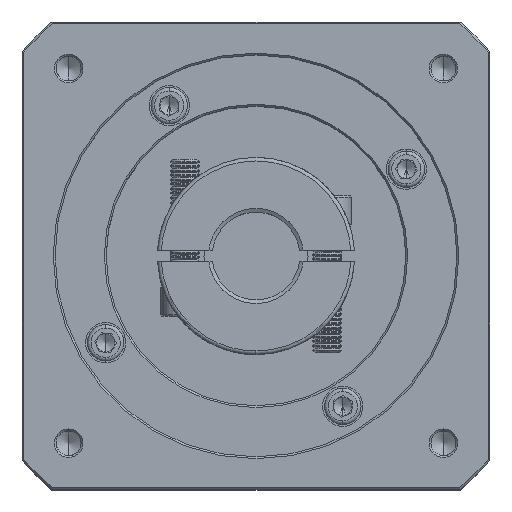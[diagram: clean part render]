
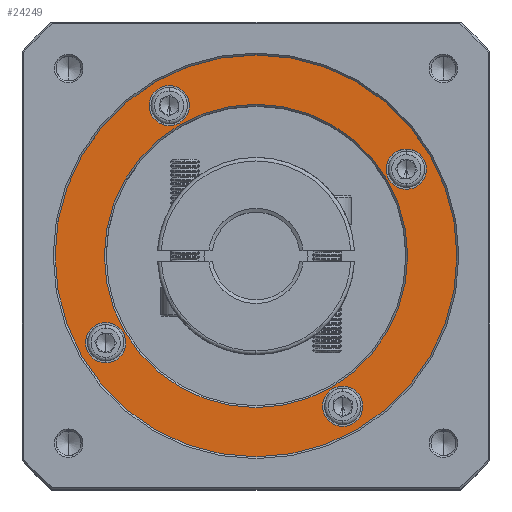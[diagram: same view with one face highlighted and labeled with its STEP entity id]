
A CAD part, top view. The second image highlights one B-rep face of the part: STEP entity #24249.
In plain terms, the highlighted planar face has unit normal (0, 0, 1).
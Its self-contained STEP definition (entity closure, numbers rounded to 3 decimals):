
#258 = DIRECTION ( 'NONE',  ( 0., 0., 1. ) ) ;
#320 = EDGE_CURVE ( 'NONE', #74528, #29827, #28955, .T. ) ;
#1079 = CARTESIAN_POINT ( 'NONE',  ( 59.764, 122.648, 51.74 ) ) ;
#3628 = ORIENTED_EDGE ( 'NONE', *, *, #23778, .T. ) ;
#4138 = ORIENTED_EDGE ( 'NONE', *, *, #44532, .T. ) ;
#4210 = CARTESIAN_POINT ( 'NONE',  ( 42.378, 52.261, 51.74 ) ) ;
#5020 = FACE_BOUND ( 'NONE', #75077, .T. ) ;
#5111 = DIRECTION ( 'NONE',  ( 0., -1., 0. ) ) ;
#5433 = EDGE_LOOP ( 'NONE', ( #24158, #79036 ) ) ;
#5480 = VERTEX_POINT ( 'NONE', #87253 ) ;
#7080 = VERTEX_POINT ( 'NONE', #129822 ) ;
#10763 = VERTEX_POINT ( 'NONE', #47444 ) ;
#12728 = VERTEX_POINT ( 'NONE', #112865 ) ;
#13347 = FACE_OUTER_BOUND ( 'NONE', #86398, .T. ) ;
#13935 = AXIS2_PLACEMENT_3D ( 'NONE', #68213, #79437, #57432 ) ;
#14695 = VERTEX_POINT ( 'NONE', #4210 ) ;
#14941 = DIRECTION ( 'NONE',  ( 0., 0., -1. ) ) ;
#15617 = ORIENTED_EDGE ( 'NONE', *, *, #320, .T. ) ;
#18250 = DIRECTION ( 'NONE',  ( 0., 0., -1. ) ) ;
#18753 = CARTESIAN_POINT ( 'NONE',  ( 59.764, 122.648, 51.74 ) ) ;
#19352 = CIRCLE ( 'NONE', #71139, 55. ) ;
#22189 = CIRCLE ( 'NONE', #38865, 5.5 ) ;
#23778 = EDGE_CURVE ( 'NONE', #58582, #99785, #85824, .T. ) ;
#23976 = VERTEX_POINT ( 'NONE', #120962 ) ;
#24122 = DIRECTION ( 'NONE',  ( 0., -1., 0. ) ) ;
#24158 = ORIENTED_EDGE ( 'NONE', *, *, #37635, .T. ) ;
#24249 = ADVANCED_FACE ( 'NONE', ( #13347, #55381, #137319, #5020, #98824, #68765 ), #106819, .T. ) ;
#25458 = CIRCLE ( 'NONE', #49634, 5.5 ) ;
#26207 = CARTESIAN_POINT ( 'NONE',  ( 83.514, 26.511, 51.74 ) ) ;
#27466 = CIRCLE ( 'NONE', #62002, 5.5 ) ;
#28955 = CIRCLE ( 'NONE', #59847, 5.5 ) ;
#28964 = CIRCLE ( 'NONE', #118522, 5.5 ) ;
#29827 = VERTEX_POINT ( 'NONE', #48607 ) ;
#30748 = DIRECTION ( 'NONE',  ( 0., 0., -1. ) ) ;
#35148 = CARTESIAN_POINT ( 'NONE',  ( 59.764, 117.148, 51.74 ) ) ;
#35442 = ORIENTED_EDGE ( 'NONE', *, *, #101432, .T. ) ;
#36492 = CARTESIAN_POINT ( 'NONE',  ( 107.264, 40.375, 51.74 ) ) ;
#37635 = EDGE_CURVE ( 'NONE', #130727, #23976, #25458, .T. ) ;
#38865 = AXIS2_PLACEMENT_3D ( 'NONE', #94852, #96222, #42374 ) ;
#39265 = DIRECTION ( 'NONE',  ( 0., 0., -1. ) ) ;
#39836 = ORIENTED_EDGE ( 'NONE', *, *, #122654, .T. ) ;
#40541 = ORIENTED_EDGE ( 'NONE', *, *, #132164, .T. ) ;
#41787 = DIRECTION ( 'NONE',  ( 0., -1., 0. ) ) ;
#42374 = DIRECTION ( 'NONE',  ( 0., -1., 0. ) ) ;
#42488 = DIRECTION ( 'NONE',  ( 0., -1., 0. ) ) ;
#44028 = CARTESIAN_POINT ( 'NONE',  ( 107.264, 45.875, 51.74 ) ) ;
#44532 = EDGE_CURVE ( 'NONE', #10763, #99980, #109635, .T. ) ;
#46409 = EDGE_CURVE ( 'NONE', #12728, #14695, #133173, .T. ) ;
#47444 = CARTESIAN_POINT ( 'NONE',  ( 42.014, 81.511, 51.74 ) ) ;
#48607 = CARTESIAN_POINT ( 'NONE',  ( 107.264, 34.875, 51.74 ) ) ;
#49634 = AXIS2_PLACEMENT_3D ( 'NONE', #18753, #95558, #83441 ) ;
#52155 = DIRECTION ( 'NONE',  ( 0., 0., 1. ) ) ;
#52821 = DIRECTION ( 'NONE',  ( -1., 0., 0. ) ) ;
#53078 = CIRCLE ( 'NONE', #86691, 41.5 ) ;
#53142 = ORIENTED_EDGE ( 'NONE', *, *, #90568, .T. ) ;
#55381 = FACE_BOUND ( 'NONE', #125342, .T. ) ;
#55482 = DIRECTION ( 'NONE',  ( 0., -1., 0. ) ) ;
#57432 = DIRECTION ( 'NONE',  ( 0., -1., 0. ) ) ;
#58582 = VERTEX_POINT ( 'NONE', #26207 ) ;
#59847 = AXIS2_PLACEMENT_3D ( 'NONE', #36492, #14941, #121655 ) ;
#60477 = CARTESIAN_POINT ( 'NONE',  ( 42.378, 57.761, 51.74 ) ) ;
#62002 = AXIS2_PLACEMENT_3D ( 'NONE', #1079, #98454, #55482 ) ;
#63658 = CIRCLE ( 'NONE', #13935, 5.5 ) ;
#67242 = DIRECTION ( 'NONE',  ( 0., 0., 1. ) ) ;
#68213 = CARTESIAN_POINT ( 'NONE',  ( 107.264, 40.375, 51.74 ) ) ;
#68765 = FACE_BOUND ( 'NONE', #5433, .T. ) ;
#71139 = AXIS2_PLACEMENT_3D ( 'NONE', #87861, #67242, #24122 ) ;
#74528 = VERTEX_POINT ( 'NONE', #44028 ) ;
#75077 = EDGE_LOOP ( 'NONE', ( #53142, #88671 ) ) ;
#75230 = CARTESIAN_POINT ( 'NONE',  ( 83.514, 136.511, 51.74 ) ) ;
#75439 = AXIS2_PLACEMENT_3D ( 'NONE', #116216, #52155, #41787 ) ;
#76262 = ORIENTED_EDGE ( 'NONE', *, *, #90304, .T. ) ;
#78145 = AXIS2_PLACEMENT_3D ( 'NONE', #108856, #258, #96256 ) ;
#79036 = ORIENTED_EDGE ( 'NONE', *, *, #89648, .T. ) ;
#79437 = DIRECTION ( 'NONE',  ( 0., 0., -1. ) ) ;
#83441 = DIRECTION ( 'NONE',  ( 0., -1., 0. ) ) ;
#85360 = AXIS2_PLACEMENT_3D ( 'NONE', #123985, #39265, #5111 ) ;
#85824 = CIRCLE ( 'NONE', #78145, 55. ) ;
#86398 = EDGE_LOOP ( 'NONE', ( #3628, #40541 ) ) ;
#86691 = AXIS2_PLACEMENT_3D ( 'NONE', #94465, #30748, #52821 ) ;
#87253 = CARTESIAN_POINT ( 'NONE',  ( 124.65, 110.761, 51.74 ) ) ;
#87861 = CARTESIAN_POINT ( 'NONE',  ( 83.514, 81.511, 51.74 ) ) ;
#87866 = DIRECTION ( 'NONE',  ( -1., 0., 0. ) ) ;
#88671 = ORIENTED_EDGE ( 'NONE', *, *, #126910, .T. ) ;
#89648 = EDGE_CURVE ( 'NONE', #23976, #130727, #27466, .T. ) ;
#89786 = EDGE_LOOP ( 'NONE', ( #76262, #112457 ) ) ;
#90304 = EDGE_CURVE ( 'NONE', #14695, #12728, #112828, .T. ) ;
#90568 = EDGE_CURVE ( 'NONE', #7080, #5480, #28964, .T. ) ;
#93195 = DIRECTION ( 'NONE',  ( 0., -1., 0. ) ) ;
#94465 = CARTESIAN_POINT ( 'NONE',  ( 83.514, 81.511, 51.74 ) ) ;
#94852 = CARTESIAN_POINT ( 'NONE',  ( 124.65, 105.261, 51.74 ) ) ;
#95558 = DIRECTION ( 'NONE',  ( 0., 0., -1. ) ) ;
#96222 = DIRECTION ( 'NONE',  ( 0., 0., -1. ) ) ;
#96256 = DIRECTION ( 'NONE',  ( 0., -1., 0. ) ) ;
#98120 = DIRECTION ( 'NONE',  ( 0., 0., -1. ) ) ;
#98454 = DIRECTION ( 'NONE',  ( 0., 0., -1. ) ) ;
#98824 = FACE_BOUND ( 'NONE', #89786, .T. ) ;
#99785 = VERTEX_POINT ( 'NONE', #75230 ) ;
#99980 = VERTEX_POINT ( 'NONE', #109337 ) ;
#101432 = EDGE_CURVE ( 'NONE', #29827, #74528, #63658, .T. ) ;
#101914 = AXIS2_PLACEMENT_3D ( 'NONE', #131337, #98120, #87866 ) ;
#105847 = EDGE_LOOP ( 'NONE', ( #35442, #15617 ) ) ;
#106104 = CARTESIAN_POINT ( 'NONE',  ( 124.65, 105.261, 51.74 ) ) ;
#106819 = PLANE ( 'NONE',  #75439 ) ;
#108856 = CARTESIAN_POINT ( 'NONE',  ( 83.514, 81.511, 51.74 ) ) ;
#109337 = CARTESIAN_POINT ( 'NONE',  ( 125.014, 81.511, 51.74 ) ) ;
#109635 = CIRCLE ( 'NONE', #101914, 41.5 ) ;
#112457 = ORIENTED_EDGE ( 'NONE', *, *, #46409, .T. ) ;
#112828 = CIRCLE ( 'NONE', #85360, 5.5 ) ;
#112865 = CARTESIAN_POINT ( 'NONE',  ( 42.378, 63.261, 51.74 ) ) ;
#116216 = CARTESIAN_POINT ( 'NONE',  ( 83.514, 81.511, 51.74 ) ) ;
#116448 = AXIS2_PLACEMENT_3D ( 'NONE', #60477, #18250, #93195 ) ;
#118305 = DIRECTION ( 'NONE',  ( 0., 0., -1. ) ) ;
#118522 = AXIS2_PLACEMENT_3D ( 'NONE', #106104, #118305, #42488 ) ;
#120962 = CARTESIAN_POINT ( 'NONE',  ( 59.764, 128.148, 51.74 ) ) ;
#121655 = DIRECTION ( 'NONE',  ( 0., -1., 0. ) ) ;
#122654 = EDGE_CURVE ( 'NONE', #99980, #10763, #53078, .T. ) ;
#123985 = CARTESIAN_POINT ( 'NONE',  ( 42.378, 57.761, 51.74 ) ) ;
#125342 = EDGE_LOOP ( 'NONE', ( #4138, #39836 ) ) ;
#126910 = EDGE_CURVE ( 'NONE', #5480, #7080, #22189, .T. ) ;
#129822 = CARTESIAN_POINT ( 'NONE',  ( 124.65, 99.761, 51.74 ) ) ;
#130727 = VERTEX_POINT ( 'NONE', #35148 ) ;
#131337 = CARTESIAN_POINT ( 'NONE',  ( 83.514, 81.511, 51.74 ) ) ;
#132164 = EDGE_CURVE ( 'NONE', #99785, #58582, #19352, .T. ) ;
#133173 = CIRCLE ( 'NONE', #116448, 5.5 ) ;
#137319 = FACE_BOUND ( 'NONE', #105847, .T. ) ;
